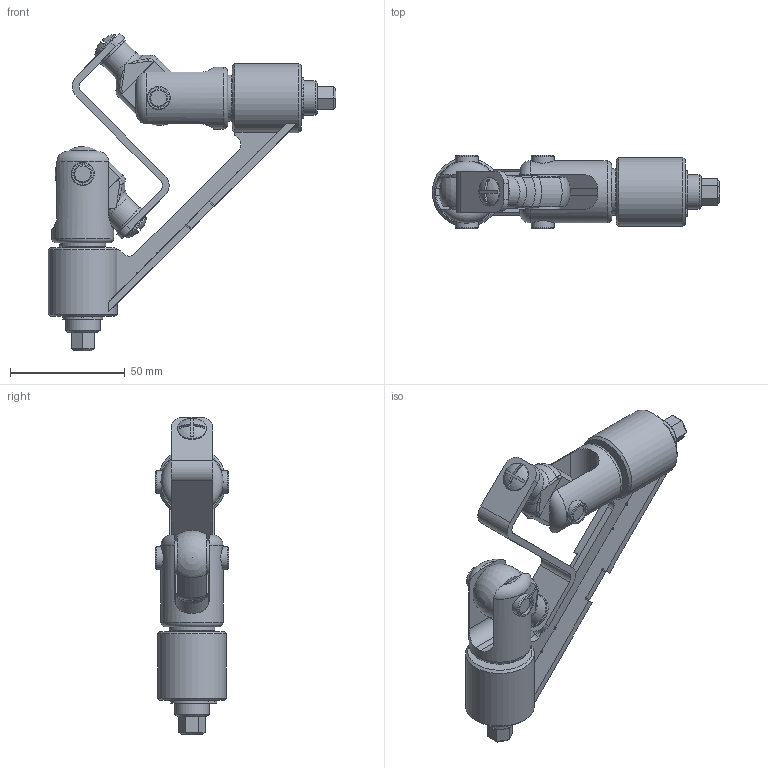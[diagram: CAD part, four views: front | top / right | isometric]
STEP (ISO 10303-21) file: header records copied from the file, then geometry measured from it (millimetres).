
FILE_DESCRIPTION(/* description */ (''),/* implementation_level */ '2;1');
FILE_NAME(/* name */ 'renvoi d''angle but s2 v43.step',/* time_stamp */ '2023-08-28T10:51:29+02:00',/* author */ (''),/* organization */ (''),/* preprocessor_version */ 'ST-DEVELOPER v20',/* originating_system */ 'Autodesk Translation Framework v12.9.0.99',/* authorisation */ '');
FILE_SCHEMA (('AUTOMOTIVE_DESIGN { 1 0 10303 214 3 1 1 }'));
Length unit declared in the file: millimetre
Products named in the file (18): renvoi d'angle but s2; pallier; renfort; nervure; axe; spring_retaining_ring_nf_e_22-163_15x1 v1; came; noix; GLWFM_0810_09_1  MODIF; GLWFM_0810_09_1 v1(Symétrie miroir); GLWFM_0810_09_1 v1(Symétrie miroir) (1); GLWFM_0810_09_1 v1(Symétrie miroir)(Symétrie mi
roir); goupilles; goupilles(Symétrie miroir); BATI; GLWFM_0810_09_1  MODIF_1; GLWFM_0810_09_1  MODIF_2; vis poelier
Assembly tree (22 placements, depth 2):
  renvoi d'angle but s2
    pallier  x2
    renfort
    nervure
    axe  x2
    spring_retaining_ring_nf_e_22-163_15x1 v1  x2
    came
    noix  x2
    GLWFM_0810_09_1  MODIF
    GLWFM_0810_09_1 v1(Symétrie miroir)
    GLWFM_0810_09_1 v1(Symétrie miroir) (1)
    GLWFM_0810_09_1 v1(Symétrie miroir)(Symétrie mi
roir)
    goupilles
    goupilles(Symétrie miroir)
    BATI
    vis poelier  x2
    GLWFM_0810_09_1  MODIF_1
    GLWFM_0810_09_1  MODIF_2
Bounding box: 125 x 32 x 138.28 mm (x, y, z)
Volume: 102546.6 mm3; surface area: 50095.4 mm2
Topology: 21 solids, 21 shells, 352 faces, 806 edges, 508 vertices
Faces by surface type: plane 170, cylinder 106, cone 28, bspline 24, torus 20, sphere 4
Full cylindrical faces by diameter (mm): 1.7 x4, 4.234 x2, 4.901 x2, 8 x12, 10 x12, 12.5 x2, 14 x2, 14.3 x2, 14.4 x2, 15 x12, 20 x2, 27 x2, 30 x2
Entity records: 8015 total; most frequent: CARTESIAN_POINT 1766, DIRECTION 1284, ORIENTED_EDGE 1104, EDGE_CURVE 552, AXIS2_PLACEMENT_3D 501, VERTEX_POINT 355, EDGE_LOOP 291, LINE 282
